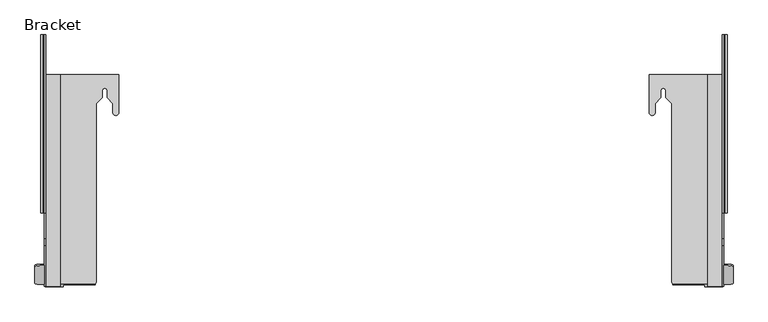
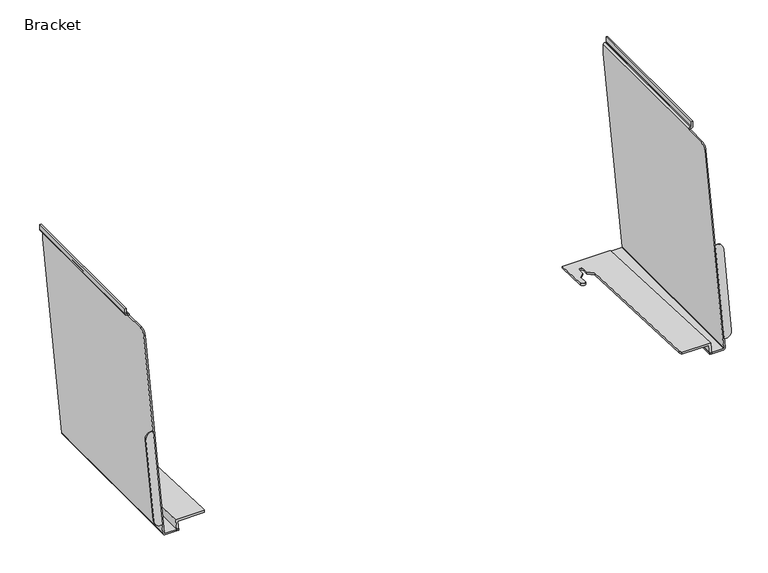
"""IFC4 building model written with IfcOpenShell, lengths in millimetres: furniture geometry, Steelcase Turnstone - Bivi - Seat - Rumble Seat - Table Frame Attachment Bracket : Bracket."""

import ifcopenshell
import ifcopenshell.guid

model = None  # the IFC model being written
_history = None  # IfcOwnerHistory: only IFC2X3 demands one
_inside = {}  # id of a spatial element -> (the spatial element, [elements in it])
_under = {}  # id of a project, library or spatial element -> (it, [spatial elements below it])
_declared = {}  # id of a project -> (the project, [libraries it declares])
_typed = {}  # id of a type object -> (the type object, [elements of that type])
_made_of = {}  # id of a material, layer set ... -> (it, [elements and type objects made of it])


def new_model(schema):
    """Start an empty IFC model of exactly this schema.

    Asked for "IFC4X3", IfcOpenShell would pick the latest addendum, in which some entities
    have other attributes; the version numbers below select the first issue.
    IFC2X3 requires an IfcOwnerHistory on every rooted entity: one is made here for all.
    """
    global model, _history
    if schema == "IFC4X3":
        model = ifcopenshell.file(schema_version=(4, 3, 0, 0))
    else:
        model = ifcopenshell.file(schema=schema)
    _inside.clear()
    _under.clear()
    _declared.clear()
    _typed.clear()
    _made_of.clear()
    _history = None
    if model.schema == "IFC2X3":
        org = make("IfcOrganization", Name="unknown")
        user = make(
            "IfcPersonAndOrganization",
            ThePerson=make("IfcPerson", FamilyName="unknown"),
            TheOrganization=org,
        )
        app = make(
            "IfcApplication",
            ApplicationDeveloper=org,
            Version="unknown",
            ApplicationFullName="unknown",
            ApplicationIdentifier="unknown",
        )
        _history = make(
            "IfcOwnerHistory",
            OwningUser=user,
            OwningApplication=app,
            ChangeAction="ADDED",
            CreationDate=0,
        )
    return model


def make(cls, **values):
    """One entity of the class cls with the attributes given. An attribute that is None is left unset."""
    return model.create_entity(
        cls, **{name: value for name, value in values.items() if value is not None}
    )


def rooted(cls, **values):
    """An entity with a GlobalId (a new one), such as an element, a storey or a relation."""
    return make(cls, GlobalId=ifcopenshell.guid.new(), OwnerHistory=_history, **values)


def si_unit(unit_type, name, prefix=None):
    """IfcSIUnit, for example si_unit("LENGTHUNIT", "METRE", prefix="MILLI")."""
    return make("IfcSIUnit", UnitType=unit_type, Prefix=prefix, Name=name)


def assignment(units):
    """IfcUnitAssignment: the units of a project."""
    return None if units is None else make("IfcUnitAssignment", Units=units)


def point(xyz):
    """IfcCartesianPoint."""
    return None if xyz is None else make("IfcCartesianPoint", Coordinates=xyz)


def direction(xyz):
    """IfcDirection."""
    return None if xyz is None else make("IfcDirection", DirectionRatios=xyz)


def frame(location, z_axis=None, x_axis=None):
    """IfcAxis2Placement3D, a coordinate frame: its origin and axes. An axis left out is left unset."""
    return make(
        "IfcAxis2Placement3D",
        Location=point(location),
        Axis=direction(z_axis),
        RefDirection=direction(x_axis),
    )


def origin():
    """The frame at (0, 0, 0) with its axes left unset."""
    return frame((0.0, 0.0, 0.0))


def place(relative_to, where):
    """IfcLocalPlacement: puts the frame where relative to a parent placement (None: the world)."""
    return make(
        "IfcLocalPlacement", PlacementRelTo=relative_to, RelativePlacement=where
    )


def context(
    kind, dimensions, precision=None, world=None, true_north=None, identifier=None
):
    """IfcGeometricRepresentationContext, for example the 3D "Model" context."""
    return make(
        "IfcGeometricRepresentationContext",
        ContextIdentifier=identifier,
        ContextType=kind,
        CoordinateSpaceDimension=dimensions,
        Precision=precision,
        WorldCoordinateSystem=world,
        TrueNorth=true_north,
    )


def project(units=None, contexts=None):
    """IfcProject with its units and contexts."""
    return rooted(
        "IfcProject",
        Name="project",
        RepresentationContexts=contexts,
        UnitsInContext=assignment(units),
    )


def spatial(cls, under=None, at=None, **own):
    """A site, building, storey or space (cls), placed at a placement, below another one or the project."""
    s = rooted(cls, ObjectPlacement=at, **own)
    if under is not None:
        _under.setdefault(under.id(), (under, []))[1].append(s)
    return s


def polyline(points):
    """IfcPolyline through the points."""
    return make("IfcPolyline", Points=[point(p) for p in points])


def circle_curve(where, radius):
    """IfcCircle in the frame where."""
    return make("IfcCircle", Position=where, Radius=radius)


def ellipse_curve(where, semi_axis1, semi_axis2):
    """IfcEllipse in the frame where."""
    return make(
        "IfcEllipse", Position=where, SemiAxis1=semi_axis1, SemiAxis2=semi_axis2
    )


def shape(context_of_items, identifier, shape_type, items):
    """IfcShapeRepresentation: the items that make up one representation, for example the "Body"."""
    return make(
        "IfcShapeRepresentation",
        ContextOfItems=context_of_items,
        RepresentationIdentifier=identifier,
        RepresentationType=shape_type,
        Items=items,
    )


def source(mapping_origin, context_of_items, identifier, shape_type, items):
    """IfcRepresentationMap: a shape defined once, which mapped items show again and again."""
    return make(
        "IfcRepresentationMap",
        MappingOrigin=mapping_origin,
        MappedRepresentation=shape(context_of_items, identifier, shape_type, items),
    )


def transform(
    local_origin,
    x_axis=None,
    y_axis=None,
    z_axis=None,
    scale=None,
    scale2=None,
    scale3=None,
    uniform=True,
):
    """IfcCartesianTransformationOperator3D, or its non-uniform kind. x_axis, y_axis, z_axis: its Axis1, 2, 3."""
    if uniform:
        return make(
            "IfcCartesianTransformationOperator3D",
            Axis1=direction(x_axis),
            Axis2=direction(y_axis),
            LocalOrigin=point(local_origin),
            Scale=scale,
            Axis3=direction(z_axis),
        )
    return make(
        "IfcCartesianTransformationOperator3DnonUniform",
        Axis1=direction(x_axis),
        Axis2=direction(y_axis),
        LocalOrigin=point(local_origin),
        Scale=scale,
        Axis3=direction(z_axis),
        Scale2=scale2,
        Scale3=scale3,
    )


def mapped(mapping_source, mapping_target):
    """IfcMappedItem: shows the shape of a source again, moved by a transform."""
    return make(
        "IfcMappedItem", MappingSource=mapping_source, MappingTarget=mapping_target
    )


def made_of(thing, what):
    """Note that an element or type object is made of a material, layer set ...; save() writes the relation."""
    if what is not None:
        _made_of.setdefault(what.id(), (what, []))[1].append(thing)
    return thing


def element(
    cls,
    number,
    at=None,
    inside=None,
    cuts=None,
    type_object=None,
    material=None,
    context=None,
    identifier="Body",
    shape_type=None,
    held_by="IfcProductDefinitionShape",
    body=None,
    shapes=None,
    **own,
):
    """One element of the class cls, such as IfcWall. Its Tag is "e" and its number.

    at: its placement. inside: the storey or other place that contains it. cuts: it is an
    opening in that element (IfcRelVoidsElement). A single representation is given by context,
    identifier, shape_type and body (its items); several are given by shapes. held_by: the class
    of the entity that holds the representations. save() writes the other relations.
    """
    e = rooted(cls, Tag="e%d" % number, ObjectPlacement=at, **own)
    if body is not None:
        shapes = [shape(context, identifier, shape_type, body)]
    if shapes is not None:
        e.Representation = make(held_by, Representations=shapes)
    if inside is not None:
        _inside.setdefault(inside.id(), (inside, []))[1].append(e)
    if cuts is not None:
        rooted(
            "IfcRelVoidsElement", RelatingBuildingElement=cuts, RelatedOpeningElement=e
        )
    if type_object is not None:
        _typed.setdefault(type_object.id(), (type_object, []))[1].append(e)
    return made_of(e, material)


def aggregate(whole, parts):
    """IfcRelAggregates: a whole, such as a stair, and the parts it consists of."""
    return rooted("IfcRelAggregates", RelatingObject=whole, RelatedObjects=parts)


def save(model, path):
    """Write the relations noted so far, then the file.

    IfcRelAggregates (storeys below a building ...), IfcRelContainedInSpatialStructure (elements
    in a storey), IfcRelDefinesByType, IfcRelAssociatesMaterial and IfcRelDeclares: one each for
    every whole, place, type object, material and project.
    """
    for whole, parts in _under.values():
        aggregate(whole, parts)
    for where, things in _inside.values():
        rooted(
            "IfcRelContainedInSpatialStructure",
            RelatedElements=things,
            RelatingStructure=where,
        )
    for kind, things in _typed.values():
        rooted("IfcRelDefinesByType", RelatedObjects=things, RelatingType=kind)
    for what, things in _made_of.values():
        rooted("IfcRelAssociatesMaterial", RelatedObjects=things, RelatingMaterial=what)
    for by, libraries in _declared.values():
        rooted("IfcRelDeclares", RelatingContext=by, RelatedDefinitions=libraries)
    model.write(path)


def plane_surface(at):
    """IfcPlane: the flat surface through the origin of the frame at, square to its z axis."""
    return make("IfcPlane", Position=at)


def cylinder_surface(at, radius):
    """IfcCylindricalSurface: all points at the distance radius from the z axis of the frame at."""
    return make("IfcCylindricalSurface", Position=at, Radius=radius)


def revolved_surface(curve, axis_point, axis_direction):
    """IfcSurfaceOfRevolution: the curve turned about the line through axis_point along axis_direction."""
    return make(
        "IfcSurfaceOfRevolution",
        SweptCurve=make("IfcArbitraryOpenProfileDef", ProfileType="CURVE", Curve=curve),
        AxisPosition=make("IfcAxis1Placement", Location=point(axis_point), Axis=direction(axis_direction)),
    )


def advanced_brep(points, edges, surfaces, faces):
    """IfcAdvancedBrep: a solid bounded by faces that lie on surfaces and meet in shared edges.

    An edge is (start, end): straight between two places in points (the first is 0);
    or (start, end, curve); or (start, end, curve, False) where it runs against its curve.
    A face is (place in surfaces, loops), or (place, loops, False) where it looks against
    its surface's normal. A loop lists edges by number (the first is 1), with a minus sign
    where the edge is run from its end to its start. The first loop is the outer one.
    """
    corners = [point(p) for p in points]
    vertices = [make("IfcVertexPoint", VertexGeometry=c) for c in corners]
    made = []
    for start, end, *more in edges:
        made.append(
            make(
                "IfcEdgeCurve",
                EdgeStart=vertices[start],
                EdgeEnd=vertices[end],
                EdgeGeometry=more[0] if more else make("IfcPolyline", Points=[corners[start], corners[end]]),
                SameSense=more[1] if len(more) > 1 else True,
            )
        )
    hull = []
    for where, loops, *sense in faces:
        bounds = []
        for j, loop in enumerate(loops):
            ring = [make("IfcOrientedEdge", EdgeElement=made[abs(k) - 1], Orientation=k > 0) for k in loop]
            bounds.append(
                make(
                    "IfcFaceOuterBound" if j == 0 else "IfcFaceBound",
                    Bound=make("IfcEdgeLoop", EdgeList=ring),
                    Orientation=True,
                )
            )
        hull.append(make("IfcAdvancedFace", Bounds=bounds, FaceSurface=surfaces[where], SameSense=sense[0] if sense else True))
    return make("IfcAdvancedBrep", Outer=make("IfcClosedShell", CfsFaces=hull))


def bracket_8338e0bc(model_context):
    return source(origin(), model_context, "Body", "AdvancedBrep", [
        advanced_brep(
        [(1278.9615646, -163.5694426, 504.6641143), (1274.8385127, -163.5694426, 504.6641143), (1274.8385127, -196.2490672, 319.3287534), (1278.1913157, -196.2490672, 319.3287534), (1290.8913127, -194.0437098, 331.8359571), (1290.8913127, -165.6410462, 492.9154667), (1278.9615646, -161.2981934, 504.2522241), (1290.8913127, -163.4269275, 492.5139371), (1290.8913127, -192.6128772, 331.5764762), (1278.1913157, -194.8790539, 319.080302), (1274.8385127, -194.8790539, 319.080302), (1274.8385127, -161.2981934, 504.2522241)],
        [
            (0, 1),
            (1, 2),
            (2, 3),
            (3, 4, ellipse_curve(frame((1278.1913157, -194.0437098, 331.8359571), z_axis=(0.0, -0.9848077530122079, 0.17364817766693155), x_axis=(0.0, -0.1736481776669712, -0.984807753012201)), 12.7001475, 12.6999971)),
            (4, 5),
            (5, 0, ellipse_curve(frame((1278.9615646, -165.6410462, 492.9154667), z_axis=(0.0, -0.9848077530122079, 0.17364817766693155), x_axis=(0.0, -0.1736481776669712, -0.984807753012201)), 11.9298894, 11.9297481)),
            (6, 7, circle_curve(frame((1278.9615646, -163.4269275, 492.5139371), z_axis=(0.0, 0.9839509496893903, -0.1784391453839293), x_axis=(0.0, -0.1784391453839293, -0.9839509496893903)), 11.9297481)),
            (7, 8),
            (8, 9, circle_curve(frame((1278.1913157, -192.6128772, 331.5764762), z_axis=(0.0, 0.9839509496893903, -0.1784391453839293), x_axis=(0.0, -0.1784391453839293, -0.9839509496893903)), 12.6999971)),
            (9, 10),
            (10, 11),
            (11, 6),
            (11, 1),
            (0, 6),
            (10, 2),
            (9, 3),
            (8, 4),
            (7, 5),
        ],
        [
            plane_surface(frame((-105.6465848, -130.1351991, 694.2791319), z_axis=(0.0, -0.9848077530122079, 0.17364817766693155), x_axis=(1.0, 0.0, 0.0))),
            plane_surface(frame((1278.9615646, -165.5556615, 480.7756501), z_axis=(0.0, 0.9839509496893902, -0.17843914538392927), x_axis=(-1.0, 0.0, 0.0))),
            plane_surface(frame((1274.8385127, -161.2981934, 504.2522241), z_axis=(0.0, 0.17843914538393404, 0.9839509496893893), x_axis=(0.0, -0.9839509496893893, 0.17843914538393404))),
            plane_surface(frame((1274.8385127, -194.8790539, 319.080302), z_axis=(-1.0, 0.0, 0.0), x_axis=(0.0, -0.9839509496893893, 0.17843914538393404))),
            plane_surface(frame((1278.1913157, -194.8790539, 319.080302), z_axis=(0.0, -0.17843914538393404, -0.9839509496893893), x_axis=(0.0, -0.9839509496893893, 0.17843914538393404))),
            cylinder_surface(frame((1278.1913157, -195.6877218, 332.1340981), z_axis=(0.0, 0.9839509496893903, -0.1784391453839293), x_axis=(0.0, -0.1784391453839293, -0.9839509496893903)), 12.6999971),
            plane_surface(frame((1290.8913127, -163.4269275, 492.5139371), z_axis=(1.0, 0.0, 0.0), x_axis=(0.0, -0.9839509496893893, 0.17843914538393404))),
            cylinder_surface(frame((1278.9615646, -166.501772, 493.071559), z_axis=(0.0, 0.9839509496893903, -0.1784391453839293), x_axis=(0.0, -0.1784391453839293, -0.9839509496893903)), 11.9297481),
        ],
        [
            (0, [[1, 2, 3, 4, 5, 6]]),
            (1, [[7, 8, 9, 10, 11, 12]]),
            (2, [[-12, 13, -1, 14]]),
            (3, [[-11, 15, -2, -13]]),
            (4, [[-10, 16, -3, -15]]),
            (5, [[-9, 17, -4, -16]]),
            (6, [[-8, 18, -5, -17]]),
            (7, [[-7, -14, -6, -18]]),
        ],
    ),
        advanced_brep(
        [(1246.2381127, -199.8723316, 298.7802), (1246.2381127, -196.1325541, 319.9895321), (1186.9391624, -196.1325541, 319.9895321), (1187.3137112, -196.7451878, 316.5151141), (1242.5666209, -196.7451878, 316.5151141), (1242.5666209, -199.8723316, 298.7802), (1146.7971127, 99.7722819, 307.2629397), (1146.7971127, 164.732528, 304.4690599), (1146.7971127, 164.732528, 300.2899442), (1146.7971127, 99.7722819, 303.2057285), (1246.2381127, 164.732528, 298.7802), (1246.2381127, 164.732528, 304.4690599), (1156.9571127, 99.7722819, 307.2629397), (1156.9571127, 115.3629146, 306.5924011), (1166.7361127, 125.1314569, 306.1722652), (1166.7361127, 137.4119102, 305.6440943), (1175.1181127, 137.4119102, 305.6440943), (1175.1181127, 125.1314569, 306.1722652), (1185.2260172, 115.0343618, 306.6065319), (1185.2260172, -189.7048221, 319.7130813), (1242.5666209, 164.732528, 298.7802), (1242.5666209, 164.732528, 300.2899442), (1185.2260172, -189.7048221, 316.1991026), (1156.9571127, 99.7722819, 303.2057285), (1156.9571127, 115.3629146, 302.5059325), (1166.7361127, 125.1314569, 302.0674649), (1166.7361127, 137.4119102, 301.5162485), (1175.1181127, 137.4119102, 301.5162485), (1175.1181127, 125.1314569, 302.0674649), (1185.2260172, 115.0343618, 302.5206798)],
        [
            (0, 1),
            (1, 2),
            (2, 3, ellipse_curve(frame((1198.1410358, -189.7048221, 356.4430116), z_axis=(0.0, -0.9848077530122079, 0.17364817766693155), x_axis=(0.0, -0.17364817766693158, -0.984807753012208)), 74.3746277, 12.9150186)),
            (3, 4),
            (4, 5),
            (5, 0),
            (6, 7),
            (7, 8),
            (8, 9),
            (9, 6),
            (10, 11),
            (11, 1),
            (0, 10),
            (11, 7),
            (6, 12, ellipse_curve(frame((1151.8771127, 99.7722819, 307.2629397), z_axis=(0.0, 0.04296934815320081, 0.9990763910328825), x_axis=(0.0, 0.9990763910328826, -0.04296934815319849)), 5.0846963, 5.08)),
            (12, 13),
            (13, 14),
            (14, 15),
            (15, 16, ellipse_curve(frame((1170.9271127, 137.4119102, 305.6440943), z_axis=(0.0, -0.04296934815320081, -0.9990763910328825), x_axis=(0.0, -0.9990763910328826, 0.04296934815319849)), 4.1948744, 4.191)),
            (16, 17),
            (17, 18),
            (18, 19),
            (19, 2, ellipse_curve(frame((1198.1410358, -189.7048221, 319.7130813), z_axis=(0.0, 0.04296934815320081, 0.9990763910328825), x_axis=(0.0, 0.9990763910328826, -0.04296934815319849)), 12.926958, 12.9150186)),
            (10, 20),
            (20, 21),
            (21, 8),
            (5, 20),
            (19, 22),
            (22, 3, ellipse_curve(frame((1198.1410358, -189.7048221, 316.1991026), z_axis=(0.0, 0.044840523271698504, 0.9989941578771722), x_axis=(0.0, 0.9989941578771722, -0.04484052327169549)), 12.9280221, 12.9150186)),
            (9, 23, ellipse_curve(frame((1151.8771127, 99.7722819, 303.2057285), z_axis=(0.0, 0.044840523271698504, 0.9989941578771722), x_axis=(0.0, 0.9989941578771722, -0.04484052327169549)), 5.0851148, 5.08)),
            (23, 12),
            (23, 24),
            (24, 13),
            (24, 25),
            (25, 14),
            (25, 26),
            (26, 15),
            (26, 27, ellipse_curve(frame((1170.9271127, 137.4119102, 301.5162485), z_axis=(0.0, -0.044840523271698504, -0.9989941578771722), x_axis=(0.0, -0.9989941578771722, 0.04484052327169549)), 4.1952197, 4.191)),
            (27, 16),
            (27, 28),
            (28, 17),
            (28, 29),
            (29, 18),
            (29, 22),
            (4, 21),
        ],
        [
            plane_surface(frame((-105.6465848, -130.1351991, 694.2791319), z_axis=(0.0, -0.9848077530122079, 0.17364817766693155), x_axis=(1.0, 0.0, 0.0))),
            plane_surface(frame((1146.7971127, 164.732528, 300.5888376), z_axis=(-1.0, 0.0, 0.0), x_axis=(0.0, 0.0, -1.0))),
            plane_surface(frame((1246.2381127, 164.732528, 300.5888376), z_axis=(1.0, 0.0, 0.0), x_axis=(0.0, 0.0, 1.0))),
            plane_surface(frame((1146.7971127, -200.4313954, 320.1744212), z_axis=(0.0, 0.04296934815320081, 0.9990763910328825), x_axis=(1.0, 0.0, 0.0))),
            plane_surface(frame((1146.7971127, 164.732528, 304.4690599), z_axis=(0.0, 1.0, 0.0), x_axis=(1.0, 0.0, 0.0))),
            plane_surface(frame((1146.7971127, 164.732528, 298.7802), z_axis=(0.0, 0.0, -1.0), x_axis=(1.0, 0.0, 0.0))),
            cylinder_surface(frame((1198.1410358, -189.7048221, 0.0), z_axis=(0.0, 0.0, -1.0), x_axis=(-1.0, 0.0, 0.0)), 12.9150186),
            cylinder_surface(frame((1151.8771127, 99.7722819, 0.0), z_axis=(0.0, 0.0, -1.0), x_axis=(-1.0, 0.0, 0.0)), 5.08),
            plane_surface(frame((1156.9571127, 115.3629146, 407.911709), z_axis=(1.0, 0.0, 0.0), x_axis=(0.0, 0.0, -1.0))),
            plane_surface(frame((1166.7361127, 125.1314569, 407.911709), z_axis=(0.7067283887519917, -0.7074849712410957, 0.0), x_axis=(0.0, 0.0, -1.0))),
            plane_surface(frame((1166.7361127, 137.4119102, 407.911709), z_axis=(1.0, 0.0, 0.0), x_axis=(0.0, 0.0, -1.0))),
            revolved_surface(polyline([(1166.7361127, 137.4119102, 305.82434531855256), (1166.7361127, 137.4119102, 301.3281326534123)]), (1170.9271127, 137.4119102, 0.0), (0.0, 0.0, 1.0)),
            plane_surface(frame((1175.1181127, 125.1314569, 407.911709), z_axis=(-1.0, 0.0, 0.0), x_axis=(0.0, 0.0, -1.0))),
            plane_surface(frame((1185.2260172, 115.0343618, 407.911709), z_axis=(-0.7067283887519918, -0.7074849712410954, 0.0), x_axis=(0.0, 0.0, -1.0))),
            plane_surface(frame((1185.2260172, -189.7048221, 407.911709), z_axis=(-1.0, 0.0, 0.0), x_axis=(0.0, 0.0, -1.0))),
            plane_surface(frame((1242.5666209, -201.7788062, 316.7410515), z_axis=(-1.0000000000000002, 0.0, 0.0), x_axis=(0.0, -0.9989941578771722, 0.044840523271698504))),
            plane_surface(frame((1242.5666209, 164.9966462, 300.2780891), z_axis=(0.0, -0.044840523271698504, -0.9989941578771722), x_axis=(-1.0, 0.0, 0.0))),
        ],
        [
            (0, [[1, 2, 3, 4, 5, 6]]),
            (1, [[7, 8, 9, 10]]),
            (2, [[11, 12, -1, 13]]),
            (3, [[14, -7, 15, 16, 17, 18, 19, 20, 21, 22, 23, -2, -12]]),
            (4, [[-11, 24, 25, 26, -8, -14]]),
            (5, [[-13, -6, 27, -24]]),
            (6, [[-23, 28, 29, -3]]),
            (7, [[-15, -10, 30, 31]]),
            (8, [[-16, -31, 32, 33]]),
            (9, [[-17, -33, 34, 35]]),
            (10, [[-18, -35, 36, 37]]),
            (11, [[-19, -37, 38, 39]]),
            (12, [[-20, -39, 40, 41]]),
            (13, [[-21, -41, 42, 43]]),
            (14, [[-22, -43, 44, -28]]),
            (15, [[45, -25, -27, -5]]),
            (16, [[-45, -4, -29, -44, -42, -40, -38, -36, -34, -32, -30, -9, -26]]),
        ],
    ),
        advanced_brep(
        [(1277.7849127, 233.2990046, 720.9282), (1280.7821127, 233.2990046, 720.9282), (1280.7821127, 233.2990046, 709.8772043), (1277.3551084, 233.2990046, 706.4502), (1275.4781586, 233.2990046, 706.4502), (1274.8385127, 233.2990046, 705.8105541), (1274.8385127, 233.2990046, 687.6400124), (1271.8413127, 233.2990046, 687.6400124), (1271.8413127, 233.2990046, 706.0611666), (1275.2275462, 233.2990046, 709.4474), (1277.0894097, 233.2990046, 709.4474), (1277.7849127, 233.2990046, 710.142903), (1277.7849127, -72.9741954, 720.9282), (1280.7821127, -72.9741954, 720.9282), (1280.7821127, -72.9741954, 709.8772043), (1277.3551084, -72.9741954, 706.4502), (1275.4781586, -72.9741954, 706.4502), (1274.8385127, -72.9741954, 705.8105541), (1274.8385127, -72.9741954, 704.7738), (1274.8385127, -117.6281406, 704.7738), (1274.8385127, -130.1351991, 694.2791319), (1274.8385127, -199.2005258, 302.5902), (1274.8385127, 165.4043338, 302.5902), (1271.0285127, -199.8723316, 298.7802), (1271.0285127, 164.732528, 298.7802), (1246.2889127, -199.8723316, 298.7802), (1246.2889127, 164.732528, 298.7802), (1242.5666209, -199.3438444, 301.7774), (1242.5666209, 165.2610152, 301.7774), (1271.0592238, -199.3438444, 301.7774), (1271.0592238, 165.2610152, 301.7774), (1271.8413127, -199.205941, 302.559489), (1271.8413127, 165.3989186, 302.559489), (1271.8413127, -130.1351991, 694.2791319), (1271.8413127, -117.6281406, 704.7738), (1271.8413127, -72.9741954, 704.7738), (1271.8413127, -72.9741954, 706.0611666), (1275.2275462, -72.9741954, 709.4474), (1277.0894097, -72.9741954, 709.4474), (1277.7849127, -72.9741954, 710.142903)],
        [
            (0, 1),
            (1, 2),
            (2, 3, circle_curve(frame((1277.3551084, 233.2990046, 709.8772043), z_axis=(0.0, 1.0, 0.0), x_axis=(-1.0, 0.0, 0.0)), 3.4270043)),
            (3, 4),
            (4, 5, circle_curve(frame((1275.4781586, 233.2990046, 705.8105541), z_axis=(0.0, -1.0, 0.0), x_axis=(-1.0, 0.0, 0.0)), 0.6396459)),
            (5, 6),
            (6, 7),
            (7, 8),
            (8, 9, circle_curve(frame((1275.2275462, 233.2990046, 706.0611666), z_axis=(0.0, 1.0, 0.0), x_axis=(-1.0, 0.0, 0.0)), 3.3862334)),
            (9, 10),
            (10, 11, circle_curve(frame((1277.0894097, 233.2990046, 710.142903), z_axis=(0.0, -1.0, 0.0), x_axis=(-1.0, 0.0, 0.0)), 0.695503)),
            (11, 0),
            (0, 12),
            (12, 13),
            (13, 1),
            (13, 14),
            (14, 2),
            (14, 15, circle_curve(frame((1277.3551084, -72.9741954, 709.8772043), z_axis=(0.0, 1.0, 0.0), x_axis=(-1.0, 0.0, 0.0)), 3.4270043)),
            (15, 3),
            (15, 16),
            (16, 4),
            (16, 17, circle_curve(frame((1275.4781586, -72.9741954, 705.8105541), z_axis=(0.0, -1.0, 0.0), x_axis=(-1.0, 0.0, 0.0)), 0.6396459)),
            (17, 5),
            (17, 18),
            (18, 19),
            (19, 20, circle_curve(frame((1274.8385127, -117.6281406, 692.0738), z_axis=(1.0, 0.0, 0.0), x_axis=(0.0, -1.0, 0.0)), 12.7)),
            (20, 21),
            (21, 22),
            (22, 6),
            (21, 23, ellipse_curve(frame((1271.0285127, -199.2005258, 302.5902), z_axis=(0.0, 0.9848077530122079, -0.17364817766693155), x_axis=(0.0, -0.173648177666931, -0.9848077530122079)), 3.8687754, 3.81)),
            (23, 24),
            (24, 22, ellipse_curve(frame((1271.0285127, 165.4043338, 302.5902), z_axis=(0.0, -0.9848077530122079, 0.17364817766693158), x_axis=(0.0, -0.173648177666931, -0.984807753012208)), 3.8687754, 3.81)),
            (23, 25),
            (25, 26),
            (26, 24),
            (25, 27, ellipse_curve(frame((1246.2889127, -199.2005258, 302.5902), z_axis=(0.0, 0.9848077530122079, -0.17364817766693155), x_axis=(0.0, -0.173648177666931, -0.9848077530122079)), 3.8687754, 3.81)),
            (27, 28),
            (28, 26, ellipse_curve(frame((1246.2889127, 165.4043338, 302.5902), z_axis=(0.0, -0.9848077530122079, 0.17364817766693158), x_axis=(0.0, -0.173648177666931, -0.984807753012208)), 3.8687754, 3.81)),
            (27, 29),
            (29, 30),
            (30, 28),
            (29, 31, ellipse_curve(frame((1271.0592238, -199.205941, 302.559489), z_axis=(0.0, -0.9848077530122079, 0.17364817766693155), x_axis=(0.0, 0.173648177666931, 0.9848077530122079)), 0.7941539, 0.782089)),
            (31, 32),
            (32, 30, ellipse_curve(frame((1271.0592238, 165.3989186, 302.559489), z_axis=(0.0, 0.9848077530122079, -0.17364817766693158), x_axis=(0.0, 0.173648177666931, 0.984807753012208)), 0.7941539, 0.782089)),
            (7, 32),
            (31, 33),
            (33, 34, circle_curve(frame((1271.8413127, -117.6281406, 692.0738), z_axis=(-1.0, 0.0, 0.0), x_axis=(0.0, -1.0, 0.0)), 12.7)),
            (34, 35),
            (35, 36),
            (36, 8),
            (36, 37, circle_curve(frame((1275.2275462, -72.9741954, 706.0611666), z_axis=(0.0, 1.0, 0.0), x_axis=(-1.0, 0.0, 0.0)), 3.3862334)),
            (37, 9),
            (37, 38),
            (38, 10),
            (38, 39, circle_curve(frame((1277.0894097, -72.9741954, 710.142903), z_axis=(0.0, -1.0, 0.0), x_axis=(-1.0, 0.0, 0.0)), 0.695503)),
            (39, 11),
            (39, 12),
            (35, 18),
            (20, 33),
            (19, 34),
        ],
        [
            plane_surface(frame((1277.7849127, 233.2990046, 710.142903), z_axis=(0.0, 1.0, 0.0), x_axis=(0.0, 0.0, 1.0))),
            plane_surface(frame((1280.7821127, -200.4313954, 720.9282), z_axis=(0.0, 0.0, 1.0), x_axis=(0.0, 1.0, 0.0))),
            plane_surface(frame((1280.7821127, -200.4313954, 709.8772043), z_axis=(1.0, 0.0, 0.0), x_axis=(0.0, 1.0, 0.0))),
            cylinder_surface(frame((1277.3551084, 233.2990046, 709.8772043), z_axis=(0.0, -1.0, 0.0), x_axis=(-1.0, 0.0, 0.0)), 3.4270043),
            plane_surface(frame((1275.4781586, -200.4313954, 706.4502), z_axis=(-5.552943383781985e-12, 0.0, -1.0), x_axis=(0.0, 1.0, 0.0))),
            revolved_surface(polyline([(1274.8385127, 233.2990046, 705.8105541), (1274.8385127, -72.97419539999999, 705.8105541)]), (1275.4781586, 233.2990046, 705.8105541), (0.0, 1.0, 0.0)),
            plane_surface(frame((1274.8385127, -200.4313954, 302.5902), z_axis=(1.0, 0.0, 0.0), x_axis=(0.0, 1.0, 0.0))),
            cylinder_surface(frame((1271.0285127, 233.2990046, 302.5902), z_axis=(0.0, -1.0, 0.0), x_axis=(-1.0, 0.0, 0.0)), 3.81),
            plane_surface(frame((1246.2889127, -200.4313954, 298.7802), z_axis=(0.0, 0.0, -1.0), x_axis=(0.0, 1.0, 0.0))),
            cylinder_surface(frame((1246.2889127, 233.2990046, 302.5902), z_axis=(0.0, -1.0, 0.0), x_axis=(-1.0, 0.0, 0.0)), 3.81),
            plane_surface(frame((1271.0592238, -200.4313954, 301.7774), z_axis=(0.0, 0.0, 1.0), x_axis=(0.0, 1.0, 0.0))),
            revolved_surface(polyline([(1270.2771347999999, 165.5368219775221, 302.559489), (1270.2771347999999, -199.34384439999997, 302.559489)]), (1271.0592238, 233.2990046, 302.559489), (0.0, 1.0, 0.0)),
            plane_surface(frame((1271.8413127, -200.4313954, 706.0611666), z_axis=(-1.0, 0.0, 0.0), x_axis=(0.0, 1.0, 0.0))),
            cylinder_surface(frame((1275.2275462, 233.2990046, 706.0611666), z_axis=(0.0, -1.0, 0.0), x_axis=(-1.0, 0.0, 0.0)), 3.3862334),
            plane_surface(frame((1277.0894097, -200.4313954, 709.4474), z_axis=(-6.615744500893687e-12, 0.0, 1.0), x_axis=(0.0, 1.0, 0.0))),
            revolved_surface(polyline([(1276.3939067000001, 233.2990046, 710.142903), (1276.3939067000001, -72.97419539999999, 710.142903)]), (1277.0894097, 233.2990046, 710.142903), (0.0, 1.0, 0.0)),
            plane_surface(frame((1277.7849127, -200.4313954, 720.9282), z_axis=(-1.0, 0.0, 0.0), x_axis=(0.0, 1.0, 0.0))),
            plane_surface(frame((-105.6465848, 158.3177215, 262.4000247), z_axis=(0.0, 0.9848077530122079, -0.17364817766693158), x_axis=(1.0, 0.0, 0.0))),
            plane_surface(frame((-105.6465848, -72.9741954, 720.9282), z_axis=(0.0, -1.0, 0.0), x_axis=(1.0, 0.0, 0.0))),
            plane_surface(frame((-105.6465848, -130.1351991, 694.2791319), z_axis=(0.0, -0.9848077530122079, 0.17364817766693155), x_axis=(1.0, 0.0, 0.0))),
            cylinder_surface(frame((889.0125127, -117.6281406, 692.0738), z_axis=(1.0, 0.0, 0.0), x_axis=(0.0, -1.0, 0.0)), 12.7),
            plane_surface(frame((-105.6465848, -72.9741954, 704.7738), z_axis=(0.0, 0.0, 1.0), x_axis=(1.0, 0.0, 0.0))),
        ],
        [
            (0, [[1, 2, 3, 4, 5, 6, 7, 8, 9, 10, 11, 12]]),
            (1, [[-1, 13, 14, 15]]),
            (2, [[-2, -15, 16, 17]]),
            (3, [[-3, -17, 18, 19]]),
            (4, [[-4, -19, 20, 21]]),
            (5, [[-5, -21, 22, 23]]),
            (6, [[-6, -23, 24, 25, 26, 27, 28, 29]]),
            (7, [[-28, 30, 31, 32]]),
            (8, [[-31, 33, 34, 35]]),
            (9, [[-34, 36, 37, 38]]),
            (10, [[-37, 39, 40, 41]]),
            (11, [[-40, 42, 43, 44]]),
            (12, [[-8, 45, -43, 46, 47, 48, 49, 50]]),
            (13, [[-9, -50, 51, 52]]),
            (14, [[-10, -52, 53, 54]]),
            (15, [[-11, -54, 55, 56]]),
            (16, [[-12, -56, 57, -13]]),
            (17, [[-7, -29, -32, -35, -38, -41, -44, -45]]),
            (18, [[58, -24, -22, -20, -18, -16, -14, -57, -55, -53, -51, -49]]),
            (19, [[59, -46, -42, -39, -36, -33, -30, -27]]),
            (20, [[-59, -26, 60, -47]]),
            (21, [[-60, -25, -58, -48]]),
        ],
    ),
        advanced_brep(
        [(103.4330609, -161.2981934, 504.2522241), (107.5561127, -161.2981934, 504.2522241), (107.5561127, -194.8790539, 319.080302), (104.2033098, -194.8790539, 319.080302), (91.5033127, -192.6128772, 331.5764762), (91.5033127, -163.4269275, 492.5139371), (103.4330609, -163.5694426, 504.6641143), (107.5561127, -163.5694426, 504.6641143), (107.5561127, -196.2490672, 319.3287534), (104.2033098, -196.2490672, 319.3287534), (91.5033127, -194.0437098, 331.8359571), (91.5033127, -165.6410462, 492.9154667)],
        [
            (0, 1),
            (1, 2),
            (2, 3),
            (3, 4, circle_curve(frame((104.2033098, -192.6128772, 331.5764762), z_axis=(0.0, 0.9839509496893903, -0.1784391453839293), x_axis=(1.0, 0.0, 0.0)), 12.6999971)),
            (4, 5),
            (5, 0, circle_curve(frame((103.4330609, -163.4269275, 492.5139371), z_axis=(0.0, 0.9839509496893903, -0.1784391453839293), x_axis=(1.0, 0.0, 0.0)), 11.9297481)),
            (0, 6),
            (6, 7),
            (7, 1),
            (7, 8),
            (8, 2),
            (8, 9),
            (9, 3),
            (9, 10, ellipse_curve(frame((104.2033098, -194.0437098, 331.8359571), z_axis=(0.0, 0.9848077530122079, -0.17364817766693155), x_axis=(0.0, -0.1736481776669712, -0.984807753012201)), 12.7001475, 12.6999971)),
            (10, 4),
            (10, 11),
            (11, 5),
            (11, 6, ellipse_curve(frame((103.4330609, -165.6410462, 492.9154667), z_axis=(0.0, 0.9848077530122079, -0.17364817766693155), x_axis=(0.0, -0.1736481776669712, -0.984807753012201)), 11.9298894, 11.9297481)),
        ],
        [
            plane_surface(frame((107.5561127, -161.2981934, 504.2522241), z_axis=(0.0, 0.9839509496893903, -0.1784391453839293), x_axis=(1.0, 0.0, 0.0))),
            plane_surface(frame((103.4330609, -161.2981934, 504.2522241), z_axis=(0.0, 0.17843914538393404, 0.9839509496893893), x_axis=(0.0, -0.9839509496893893, 0.17843914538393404))),
            plane_surface(frame((107.5561127, -161.2981934, 504.2522241), z_axis=(1.0, 0.0, 0.0), x_axis=(0.0, -0.9839509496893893, 0.17843914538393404))),
            plane_surface(frame((107.5561127, -194.8790539, 319.080302), z_axis=(0.0, -0.17843914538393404, -0.9839509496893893), x_axis=(0.0, -0.9839509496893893, 0.17843914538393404))),
            cylinder_surface(frame((104.2033098, -195.6877218, 332.1340981), z_axis=(0.0, 0.9839509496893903, -0.1784391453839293), x_axis=(1.0, 0.0, 0.0)), 12.6999971),
            plane_surface(frame((91.5033127, -192.6128772, 331.5764762), z_axis=(-1.0, 0.0, 0.0), x_axis=(0.0, -0.9839509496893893, 0.17843914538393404))),
            cylinder_surface(frame((103.4330609, -166.501772, 493.071559), z_axis=(0.0, 0.9839509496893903, -0.1784391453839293), x_axis=(1.0, 0.0, 0.0)), 11.9297481),
            plane_surface(frame((-105.6465848, -130.1351991, 694.2791319), z_axis=(0.0, -0.9848077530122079, 0.17364817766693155), x_axis=(1.0, 0.0, 0.0))),
        ],
        [
            (0, [[1, 2, 3, 4, 5, 6]]),
            (1, [[-1, 7, 8, 9]]),
            (2, [[-2, -9, 10, 11]]),
            (3, [[-3, -11, 12, 13]]),
            (4, [[-4, -13, 14, 15]]),
            (5, [[-5, -15, 16, 17]]),
            (6, [[-6, -17, 18, -7]]),
            (7, [[-8, -18, -16, -14, -12, -10]]),
        ],
    ),
        advanced_brep(
        [(235.5975127, 164.732528, 300.2899442), (235.5975127, 164.732528, 304.4690599), (235.5975127, 99.7722819, 307.2629397), (235.5975127, 99.7722819, 303.2057285), (136.1565127, 164.732528, 304.4690599), (136.1565127, 164.732528, 298.7802), (136.1565127, -199.8723316, 298.7802), (136.1565127, -196.1325541, 319.9895321), (195.455463, -196.1325541, 319.9895321), (197.1686083, -189.7048221, 319.7130813), (197.1686083, 115.0343618, 306.6065319), (207.2765127, 125.1314569, 306.1722652), (207.2765127, 137.4119102, 305.6440943), (215.6585127, 137.4119102, 305.6440943), (215.6585127, 125.1314569, 306.1722652), (225.4375127, 115.3629146, 306.5924011), (225.4375127, 99.7722819, 307.2629397), (139.8280045, 164.732528, 300.2899442), (139.8280045, 164.732528, 298.7802), (139.8280045, -199.8723316, 298.7802), (139.8280045, -196.7451878, 316.5151141), (225.4375127, 99.7722819, 303.2057285), (225.4375127, 115.3629146, 302.5059325), (215.6585127, 125.1314569, 302.0674649), (215.6585127, 137.4119102, 301.5162485), (207.2765127, 137.4119102, 301.5162485), (207.2765127, 125.1314569, 302.0674649), (197.1686083, 115.0343618, 302.5206798), (197.1686083, -189.7048221, 316.1991026), (195.0809142, -196.7451878, 316.5151141)],
        [
            (0, 1),
            (1, 2),
            (2, 3),
            (3, 0),
            (4, 5),
            (5, 6),
            (6, 7),
            (7, 4),
            (1, 4),
            (7, 8),
            (8, 9, ellipse_curve(frame((184.2535897, -189.7048221, 319.7130813), z_axis=(0.0, 0.04296934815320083, 0.9990763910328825), x_axis=(0.0, 0.9990763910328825, -0.04296934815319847)), 12.926958, 12.9150186)),
            (9, 10),
            (10, 11),
            (11, 12),
            (12, 13, ellipse_curve(frame((211.4675127, 137.4119102, 305.6440943), z_axis=(0.0, -0.04296934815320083, -0.9990763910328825), x_axis=(0.0, -0.9990763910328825, 0.04296934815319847)), 4.1948744, 4.191)),
            (13, 14),
            (14, 15),
            (15, 16),
            (16, 2, ellipse_curve(frame((230.5175127, 99.7722819, 307.2629397), z_axis=(0.0, 0.04296934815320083, 0.9990763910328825), x_axis=(0.0, 0.9990763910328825, -0.04296934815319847)), 5.0846963, 5.08)),
            (0, 17),
            (17, 18),
            (18, 5),
            (18, 19),
            (19, 6),
            (17, 20),
            (20, 19),
            (3, 21, ellipse_curve(frame((230.5175127, 99.7722819, 303.2057285), z_axis=(0.0, -0.044840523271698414, -0.9989941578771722), x_axis=(0.0, 0.9989941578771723, -0.04484052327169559)), 5.0851148, 5.08)),
            (21, 22),
            (22, 23),
            (23, 24),
            (24, 25, ellipse_curve(frame((211.4675127, 137.4119102, 301.5162485), z_axis=(0.0, 0.044840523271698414, 0.9989941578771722), x_axis=(0.0, -0.9989941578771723, 0.04484052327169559)), 4.1952197, 4.191)),
            (25, 26),
            (26, 27),
            (27, 28),
            (28, 29, ellipse_curve(frame((184.2535897, -189.7048221, 316.1991026), z_axis=(0.0, -0.044840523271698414, -0.9989941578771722), x_axis=(0.0, 0.9989941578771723, -0.04484052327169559)), 12.9280221, 12.9150186)),
            (29, 20),
            (28, 9),
            (8, 29, ellipse_curve(frame((184.2535897, -189.7048221, 356.4430116), z_axis=(0.0, 0.9848077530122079, -0.17364817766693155), x_axis=(0.0, -0.17364817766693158, -0.984807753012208)), 74.3746277, 12.9150186)),
            (16, 21),
            (15, 22),
            (14, 23),
            (13, 24),
            (12, 25),
            (11, 26),
            (10, 27),
        ],
        [
            plane_surface(frame((235.5975127, -200.4313954, 320.1744212), z_axis=(1.0, 0.0, 0.0), x_axis=(0.0, -0.9990763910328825, 0.04296934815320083))),
            plane_surface(frame((136.1565127, -200.4313954, 320.1744212), z_axis=(-1.0, 0.0, 0.0), x_axis=(0.0, 0.9990763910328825, -0.04296934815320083))),
            plane_surface(frame((235.5975127, 164.732528, 304.4690599), z_axis=(0.0, 0.04296934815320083, 0.9990763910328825), x_axis=(-1.0, 0.0, 0.0))),
            plane_surface(frame((235.5975127, 164.732528, 298.7802), z_axis=(0.0, 1.0, 0.0), x_axis=(-1.0, 0.0, 0.0))),
            plane_surface(frame((235.5975127, -200.5813731, 298.7802), z_axis=(0.0, 0.0, -1.0), x_axis=(-1.0, 0.0, 0.0))),
            plane_surface(frame((139.8280045, 164.9966462, 300.2780891), z_axis=(1.0, 0.0, 0.0), x_axis=(0.0, 0.0, -1.0))),
            plane_surface(frame((139.8280045, -201.7788062, 316.7410515), z_axis=(0.0, -0.044840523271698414, -0.9989941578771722), x_axis=(1.0, 0.0, 0.0))),
            cylinder_surface(frame((184.2535897, -189.7048221, 0.0), z_axis=(0.0, 0.0, -1.0), x_axis=(1.0, 0.0, 0.0)), 12.9150186),
            cylinder_surface(frame((230.5175127, 99.7722819, 0.0), z_axis=(0.0, 0.0, -1.0), x_axis=(1.0, 0.0, 0.0)), 5.08),
            plane_surface(frame((225.4375127, 99.7722819, 407.911709), z_axis=(-1.0, 0.0, 0.0), x_axis=(0.0, 0.0, -1.0))),
            plane_surface(frame((225.4375127, 115.3629146, 407.911709), z_axis=(-0.7067283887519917, -0.7074849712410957, 0.0), x_axis=(0.0, 0.0, -1.0))),
            plane_surface(frame((215.6585127, 125.1314569, 407.911709), z_axis=(-1.0, 0.0, 0.0), x_axis=(0.0, 0.0, -1.0))),
            revolved_surface(polyline([(215.6585127, 137.4119102, 305.82434531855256), (215.6585127, 137.4119102, 301.3281326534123)]), (211.4675127, 137.4119102, 0.0), (0.0, 0.0, 1.0)),
            plane_surface(frame((207.2765127, 137.4119102, 407.911709), z_axis=(1.0, 0.0, 0.0), x_axis=(0.0, 0.0, -1.0))),
            plane_surface(frame((207.2765127, 125.1314569, 407.911709), z_axis=(0.7067283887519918, -0.7074849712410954, 0.0), x_axis=(0.0, 0.0, -1.0))),
            plane_surface(frame((197.1686083, 115.0343618, 407.911709), z_axis=(1.0, 0.0, 0.0), x_axis=(0.0, 0.0, -1.0))),
            plane_surface(frame((-105.6465848, -130.1351991, 694.2791319), z_axis=(0.0, -0.9848077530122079, 0.17364817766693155), x_axis=(1.0, 0.0, 0.0))),
        ],
        [
            (0, [[1, 2, 3, 4]]),
            (1, [[5, 6, 7, 8]]),
            (2, [[9, -8, 10, 11, 12, 13, 14, 15, 16, 17, 18, 19, -2]]),
            (3, [[-5, -9, -1, 20, 21, 22]]),
            (4, [[-22, 23, 24, -6]]),
            (5, [[-21, 25, 26, -23]]),
            (6, [[-20, -4, 27, 28, 29, 30, 31, 32, 33, 34, 35, 36, -25]]),
            (7, [[37, -11, 38, -35]]),
            (8, [[39, -27, -3, -19]]),
            (9, [[-39, -18, 40, -28]]),
            (10, [[-40, -17, 41, -29]]),
            (11, [[-41, -16, 42, -30]]),
            (12, [[-42, -15, 43, -31]]),
            (13, [[-43, -14, 44, -32]]),
            (14, [[-44, -13, 45, -33]]),
            (15, [[-37, -34, -45, -12]]),
            (16, [[-7, -24, -26, -36, -38, -10]]),
        ],
    ),
        advanced_brep(
        [(104.6097127, 233.2990046, 720.9282), (104.6097127, 233.2990046, 710.142903), (105.3052157, 233.2990046, 709.4474), (107.1670793, 233.2990046, 709.4474), (110.5533127, 233.2990046, 706.0611666), (110.5533127, 233.2990046, 687.6400124), (107.5561127, 233.2990046, 687.6400124), (107.5561127, 233.2990046, 705.8105541), (106.9164669, 233.2990046, 706.4502), (105.039517, 233.2990046, 706.4502), (101.6125127, 233.2990046, 709.8772043), (101.6125127, 233.2990046, 720.9282), (101.6125127, -72.9741954, 720.9282), (104.6097127, -72.9741954, 720.9282), (101.6125127, -72.9741954, 709.8772043), (105.039517, -72.9741954, 706.4502), (106.9164669, -72.9741954, 706.4502), (107.5561127, -72.9741954, 705.8105541), (107.5561127, 165.4043338, 302.5902), (107.5561127, -199.2005258, 302.5902), (107.5561127, -130.1351991, 694.2791319), (107.5561127, -117.6281406, 704.7738), (107.5561127, -72.9741954, 704.7738), (111.3661127, 164.732528, 298.7802), (111.3661127, -199.8723316, 298.7802), (136.1057127, 164.732528, 298.7802), (136.1057127, -199.8723316, 298.7802), (139.8280045, 165.2610152, 301.7774), (139.8280045, 131.5937616, 301.7774), (139.8280045, -199.3438444, 301.7774), (111.3354017, 165.2610152, 301.7774), (111.3354017, -199.3438444, 301.7774), (110.5533127, 165.3989186, 302.559489), (110.5533127, -199.205941, 302.559489), (110.5533127, -72.9741954, 706.0611666), (110.5533127, -72.9741954, 704.7738), (110.5533127, -117.6281406, 704.7738), (110.5533127, -130.1351991, 694.2791319), (107.1670793, -72.9741954, 709.4474), (105.3052157, -72.9741954, 709.4474), (104.6097127, -72.9741954, 710.142903)],
        [
            (0, 1),
            (1, 2, circle_curve(frame((105.3052157, 233.2990046, 710.142903), z_axis=(0.0, -1.0, 0.0), x_axis=(1.0, 0.0, 0.0)), 0.695503)),
            (2, 3),
            (3, 4, circle_curve(frame((107.1670793, 233.2990046, 706.0611666), z_axis=(0.0, 1.0, 0.0), x_axis=(1.0, 0.0, 0.0)), 3.3862334)),
            (4, 5),
            (5, 6),
            (6, 7),
            (7, 8, circle_curve(frame((106.9164669, 233.2990046, 705.8105541), z_axis=(0.0, -1.0, 0.0), x_axis=(1.0, 0.0, 0.0)), 0.6396459)),
            (8, 9),
            (9, 10, circle_curve(frame((105.039517, 233.2990046, 709.8772043), z_axis=(0.0, 1.0, 0.0), x_axis=(1.0, 0.0, 0.0)), 3.4270043)),
            (10, 11),
            (11, 0),
            (11, 12),
            (12, 13),
            (13, 0),
            (10, 14),
            (14, 12),
            (9, 15),
            (15, 14, circle_curve(frame((105.039517, -72.9741954, 709.8772043), z_axis=(0.0, 1.0, 0.0), x_axis=(1.0, 0.0, 0.0)), 3.4270043)),
            (8, 16),
            (16, 15),
            (7, 17),
            (17, 16, circle_curve(frame((106.9164669, -72.9741954, 705.8105541), z_axis=(0.0, -1.0, 0.0), x_axis=(1.0, 0.0, 0.0)), 0.6396459)),
            (6, 18),
            (18, 19),
            (19, 20),
            (20, 21, circle_curve(frame((107.5561127, -117.6281406, 692.0738), z_axis=(-1.0, 0.0, 0.0), x_axis=(0.0, -1.0, 0.0)), 12.7)),
            (21, 22),
            (22, 17),
            (18, 23, ellipse_curve(frame((111.3661127, 165.4043338, 302.5902), z_axis=(0.0, -0.9848077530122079, 0.1736481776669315), x_axis=(0.0, -0.17364817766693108, -0.984807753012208)), 3.8687754, 3.81)),
            (23, 24),
            (24, 19, ellipse_curve(frame((111.3661127, -199.2005258, 302.5902), z_axis=(0.0, 0.9848077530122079, -0.1736481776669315), x_axis=(0.0, -0.17364817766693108, -0.984807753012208)), 3.8687754, 3.81)),
            (23, 25),
            (25, 26),
            (26, 24),
            (25, 27, ellipse_curve(frame((136.1057127, 165.4043338, 302.5902), z_axis=(0.0, -0.9848077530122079, 0.1736481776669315), x_axis=(0.0, -0.17364817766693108, -0.984807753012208)), 3.8687754, 3.81)),
            (27, 28),
            (28, 29),
            (29, 26, ellipse_curve(frame((136.1057127, -199.2005258, 302.5902), z_axis=(0.0, 0.9848077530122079, -0.1736481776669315), x_axis=(0.0, -0.17364817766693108, -0.984807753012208)), 3.8687754, 3.81)),
            (30, 31),
            (31, 29),
            (27, 30),
            (30, 32, ellipse_curve(frame((111.3354017, 165.3989186, 302.559489), z_axis=(0.0, 0.9848077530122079, -0.1736481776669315), x_axis=(0.0, 0.17364817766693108, 0.984807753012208)), 0.7941539, 0.782089)),
            (32, 33),
            (33, 31, ellipse_curve(frame((111.3354017, -199.205941, 302.559489), z_axis=(0.0, -0.9848077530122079, 0.1736481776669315), x_axis=(0.0, 0.17364817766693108, 0.984807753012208)), 0.7941539, 0.782089)),
            (4, 34),
            (34, 35),
            (35, 36),
            (36, 37, circle_curve(frame((110.5533127, -117.6281406, 692.0738), z_axis=(1.0, 0.0, 0.0), x_axis=(0.0, -1.0, 0.0)), 12.7)),
            (37, 33),
            (32, 5),
            (3, 38),
            (38, 34, circle_curve(frame((107.1670793, -72.9741954, 706.0611666), z_axis=(0.0, 1.0, 0.0), x_axis=(1.0, 0.0, 0.0)), 3.3862334)),
            (2, 39),
            (39, 38),
            (1, 40),
            (40, 39, circle_curve(frame((105.3052157, -72.9741954, 710.142903), z_axis=(0.0, -1.0, 0.0), x_axis=(1.0, 0.0, 0.0)), 0.695503)),
            (13, 40),
            (22, 35),
            (37, 20),
            (36, 21),
        ],
        [
            plane_surface(frame((104.6097127, 233.2990046, 720.9282), z_axis=(0.0, 1.0, 0.0), x_axis=(1.0, 0.0, 0.0))),
            plane_surface(frame((104.6097127, -200.4313954, 720.9282), z_axis=(0.0, 0.0, 1.0), x_axis=(0.0, 1.0, 0.0))),
            plane_surface(frame((101.6125127, -200.4313954, 720.9282), z_axis=(-1.0, 0.0, 0.0), x_axis=(0.0, 1.0, 0.0))),
            cylinder_surface(frame((105.039517, 233.2990046, 709.8772043), z_axis=(0.0, -1.0, 0.0), x_axis=(1.0, 0.0, 0.0)), 3.4270043),
            plane_surface(frame((105.039517, -200.4313954, 706.4502), z_axis=(0.0, 0.0, -1.0), x_axis=(0.0, 1.0, 0.0))),
            revolved_surface(polyline([(107.55611280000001, 233.2990046, 705.8105541), (107.55611280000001, -72.97419539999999, 705.8105541)]), (106.9164669, 233.2990046, 705.8105541), (0.0, 1.0, 0.0)),
            plane_surface(frame((107.5561127, -200.4313954, 705.8105541), z_axis=(-1.0, 0.0, 0.0), x_axis=(0.0, 1.0, 0.0))),
            cylinder_surface(frame((111.3661127, 233.2990046, 302.5902), z_axis=(0.0, -1.0, 0.0), x_axis=(1.0, 0.0, 0.0)), 3.81),
            plane_surface(frame((111.3661127, -200.4313954, 298.7802), z_axis=(0.0, 0.0, -1.0), x_axis=(0.0, 1.0, 0.0))),
            cylinder_surface(frame((136.1057127, 233.2990046, 302.5902), z_axis=(0.0, -1.0, 0.0), x_axis=(1.0, 0.0, 0.0)), 3.81),
            plane_surface(frame((139.8280045, -200.4313954, 301.7774), z_axis=(0.0, 0.0, 1.0), x_axis=(0.0, 1.0, 0.0))),
            revolved_surface(polyline([(112.1174907, 165.5368219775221, 302.559489), (112.1174907, -199.34384439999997, 302.559489)]), (111.3354017, 233.2990046, 302.559489), (0.0, 1.0, 0.0)),
            plane_surface(frame((110.5533127, -200.4313954, 302.559489), z_axis=(1.0, 0.0, 0.0), x_axis=(0.0, 1.0, 0.0))),
            cylinder_surface(frame((107.1670793, 233.2990046, 706.0611666), z_axis=(0.0, -1.0, 0.0), x_axis=(1.0, 0.0, 0.0)), 3.3862334),
            plane_surface(frame((107.1670793, -200.4313954, 709.4474), z_axis=(0.0, 0.0, 1.0), x_axis=(0.0, 1.0, 0.0))),
            revolved_surface(polyline([(106.00071870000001, 233.2990046, 710.142903), (106.00071870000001, -72.97419539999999, 710.142903)]), (105.3052157, 233.2990046, 710.142903), (0.0, 1.0, 0.0)),
            plane_surface(frame((104.6097127, -200.4313954, 710.142903), z_axis=(1.0, 0.0, 0.0), x_axis=(0.0, 1.0, 0.0))),
            plane_surface(frame((1883.6716103, 233.2990046, 687.6400124), z_axis=(0.0, 0.9848077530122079, -0.1736481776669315), x_axis=(-1.0, 0.0, 0.0))),
            plane_surface(frame((1883.6716103, -72.9741954, 704.7738), z_axis=(0.0, -1.0, 0.0), x_axis=(-1.0, 0.0, 0.0))),
            plane_surface(frame((1883.6716103, -206.2871381, 262.4000247), z_axis=(0.0, -0.9848077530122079, 0.1736481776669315), x_axis=(-1.0, 0.0, 0.0))),
            cylinder_surface(frame((889.0125127, -117.6281406, 692.0738), z_axis=(-1.0, 0.0, 0.0), x_axis=(0.0, -1.0, 0.0)), 12.7),
            plane_surface(frame((1883.6716103, -117.6281406, 704.7738), z_axis=(0.0, 0.0, 1.0), x_axis=(-1.0, 0.0, 0.0))),
        ],
        [
            (0, [[1, 2, 3, 4, 5, 6, 7, 8, 9, 10, 11, 12]]),
            (1, [[-12, 13, 14, 15]]),
            (2, [[-11, 16, 17, -13]]),
            (3, [[-10, 18, 19, -16]]),
            (4, [[-9, 20, 21, -18]]),
            (5, [[-8, 22, 23, -20]]),
            (6, [[-7, 24, 25, 26, 27, 28, 29, -22]]),
            (7, [[-25, 30, 31, 32]]),
            (8, [[-31, 33, 34, 35]]),
            (9, [[-34, 36, 37, 38, 39]]),
            (10, [[40, 41, -38, -37, 42]]),
            (11, [[-40, 43, 44, 45]]),
            (12, [[-5, 46, 47, 48, 49, 50, -44, 51]]),
            (13, [[-4, 52, 53, -46]]),
            (14, [[-3, 54, 55, -52]]),
            (15, [[-2, 56, 57, -54]]),
            (16, [[-1, -15, 58, -56]]),
            (17, [[-6, -51, -43, -42, -36, -33, -30, -24]]),
            (18, [[59, -47, -53, -55, -57, -58, -14, -17, -19, -21, -23, -29]]),
            (19, [[60, -26, -32, -35, -39, -41, -45, -50]]),
            (20, [[-60, -49, 61, -27]]),
            (21, [[-59, -28, -61, -48]]),
        ],
    ),
    ])


if __name__ == "__main__":
    model = new_model("IFC4")
    model_context = context("Model", 3, world=origin())
    ifc_project = project(units=[si_unit("LENGTHUNIT", "METRE", prefix="MILLI")], contexts=[model_context])
    site = spatial("IfcSite", under=ifc_project)
    building = spatial("IfcBuilding", under=site)
    placement = place(None, origin())
    bracket_shape = bracket_8338e0bc(model_context)
    element("IfcFurniture", 1, ObjectType="Steelcase Turnstone - Bivi - Seat - Rumble Seat - Table Frame Attachment Bracket : Bracket", at=placement, inside=building, context=model_context, shape_type="MappedRepresentation", body=[
        mapped(bracket_shape, transform((0.0, 0.0, 0.0), x_axis=(1.0, 0.0, 0.0), y_axis=(0.0, 1.0, 0.0), z_axis=(0.0, 0.0, 1.0))),
    ])
    save(model, "model.ifc")
